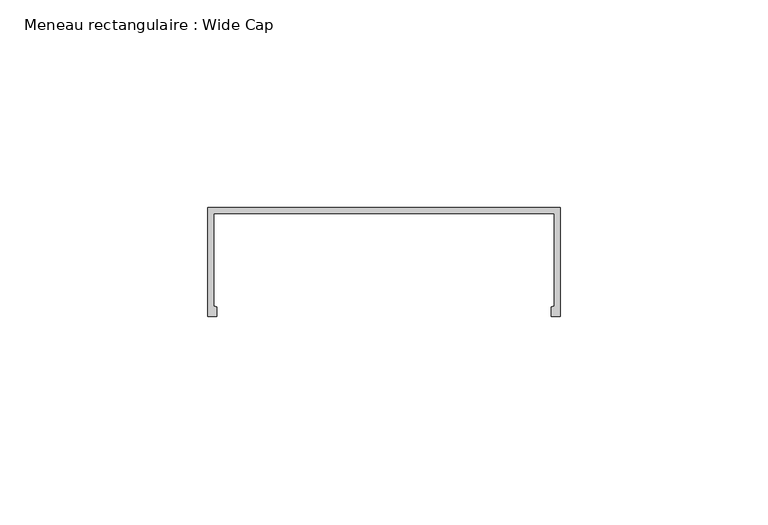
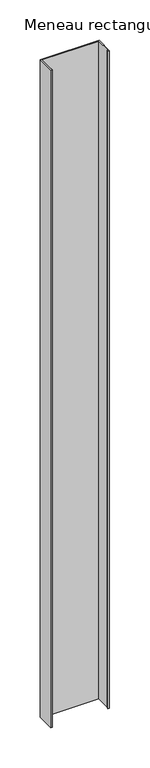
"""IFC4 building model written with IfcOpenShell, lengths in millimetres: member geometry, Meneau rectangulaire : Wide Cap."""

from ifc_helpers import new_model, si_unit, frame, origin, place, context, project, spatial, polyline, outline, extrude, source, transform, mapped, element, save


def meneau_rectangulaire_wide_cap_d8bd72df(model_context):
    return source(origin(), model_context, "Body", "SweptSolid", [
        extrude(outline(polyline([(84.6230145, 32.1007192), (84.6230145, 6.0), (82.4740075, 6.0), (82.4740075, 8.2419727), (83.2230145, 8.4826662), (83.2230145, 30.7007192), (1.4, 30.7007192), (1.4, 8.4826662), (2.149007, 8.2419727), (2.149007, 6.0), (0.0, 6.0), (0.0, 32.1007192), (84.6230145, 32.1007192)])), frame((0.0, 0.0, -1000.0), z_axis=(0.0, 0.0, 1.0), x_axis=(1.0, 0.0, 0.0)), (0.0, 0.0, 1.0), 1000.0),
    ])


if __name__ == "__main__":
    model = new_model("IFC4")
    model_context = context("Model", 3, world=origin())
    ifc_project = project(units=[si_unit("LENGTHUNIT", "METRE", prefix="MILLI")], contexts=[model_context])
    site = spatial("IfcSite", under=ifc_project)
    building = spatial("IfcBuilding", under=site)
    placement = place(None, origin())
    meneau_rectangulaire_wide_cap_shape = meneau_rectangulaire_wide_cap_d8bd72df(model_context)
    element("IfcMember", 1, ObjectType="Meneau rectangulaire : Wide Cap", at=placement, inside=building, context=model_context, shape_type="MappedRepresentation", body=[
        mapped(meneau_rectangulaire_wide_cap_shape, transform((0.0, 0.0, 0.0), x_axis=(1.0, 0.0, 0.0), y_axis=(0.0, 1.0, 0.0), z_axis=(0.0, 0.0, 1.0))),
    ])
    save(model, "model.ifc")
